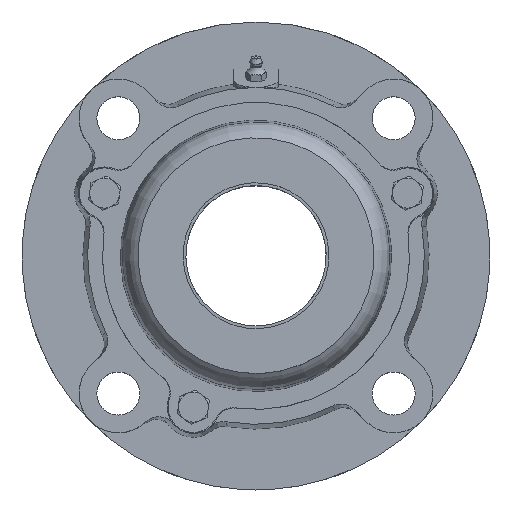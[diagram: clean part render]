
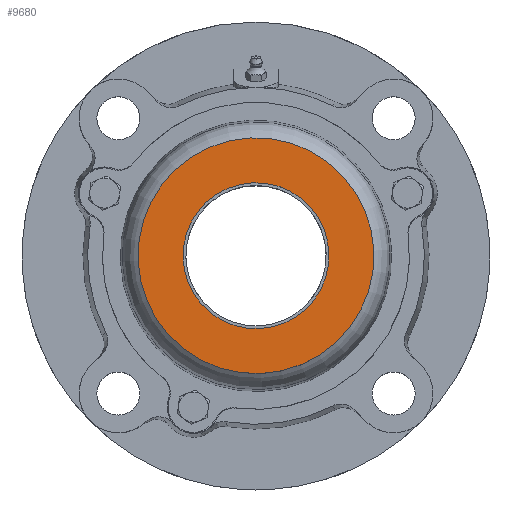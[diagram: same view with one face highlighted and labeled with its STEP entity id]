
A CAD part, top view. The second image highlights one B-rep face of the part: STEP entity #9680.
In plain terms, the highlighted planar face has unit normal (0, 0, 1).
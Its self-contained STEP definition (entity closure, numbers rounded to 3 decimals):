
#8945=CARTESIAN_POINT('',(39.0,0.,51.5));
#8946=VERTEX_POINT('',#8945);
#8947=CARTESIAN_POINT('',(0.0,0.0,51.5));
#8948=DIRECTION('',(0.0,0.0,-1.0));
#8949=DIRECTION('',(-1.0,0.0,0.0));
#8950=AXIS2_PLACEMENT_3D('',#8947,#8948,#8949);
#8951=CIRCLE('',#8950,39.0);
#8952=EDGE_CURVE('',#8946,#8946,#8951,.T.);
#9585=CARTESIAN_POINT('',(0.0,63.,51.5));
#9586=VERTEX_POINT('',#9585);
#9587=CARTESIAN_POINT('',(0.0,0.,51.5));
#9588=DIRECTION('',(0.0,0.0,1.0));
#9589=DIRECTION('',(0.0,1.0,0.0));
#9590=AXIS2_PLACEMENT_3D('',#9587,#9588,#9589);
#9591=CIRCLE('',#9590,63.);
#9592=EDGE_CURVE('',#9586,#9586,#9591,.T.);
#9669=CARTESIAN_POINT('',(0.,88.959,51.5));
#9670=DIRECTION('',(0.0,0.0,1.0));
#9671=DIRECTION('',(1.0,0.0,0.0));
#9672=AXIS2_PLACEMENT_3D('',#9669,#9670,#9671);
#9673=PLANE('',#9672);
#9674=ORIENTED_EDGE('',*,*,#9592,.T.);
#9675=EDGE_LOOP('',(#9674));
#9676=FACE_OUTER_BOUND('',#9675,.T.);
#9677=ORIENTED_EDGE('',*,*,#8952,.T.);
#9678=EDGE_LOOP('',(#9677));
#9679=FACE_BOUND('',#9678,.T.);
#9680=ADVANCED_FACE('',(#9676,#9679),#9673,.T.);
